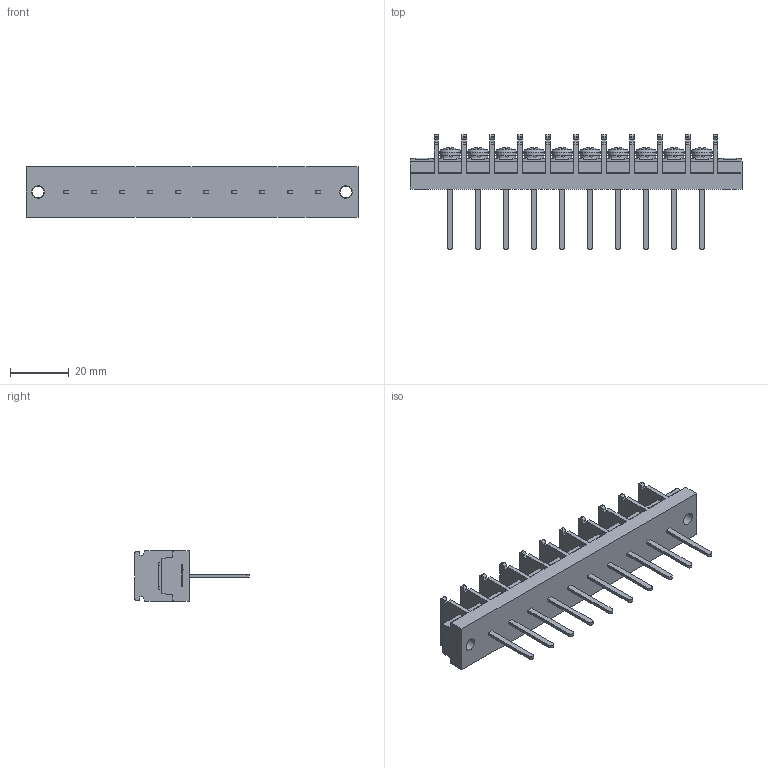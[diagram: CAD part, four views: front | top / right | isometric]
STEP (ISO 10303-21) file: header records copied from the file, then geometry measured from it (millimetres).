
FILE_DESCRIPTION(/* description */ ('Alibre Inc.'),/* implementation_level */ '2;1');
FILE_NAME(/* name */ 'export-71351A19-82BE-4975-9B4F-CE8E7717C650',/* time_stamp */ '2021-02-02T11:26:08+09:00',/* author */ (''),/* organization */ (''),/* preprocessor_version */ 'ST-DEVELOPER v17',/* originating_system */ 'Alibre',/* authorisation */ '');
FILE_SCHEMA (('CONFIG_CONTROL_DESIGN'));
Length unit declared in the file: millimetre
Bounding box: 112.7 x 39 x 17 mm (x, y, z)
Volume: 20269.8 mm3; surface area: 13781.4 mm2
Topology: 1 solids, 11 shells, 1250 faces, 3434 edges, 2280 vertices
Faces by surface type: plane 896, cylinder 170, bspline 104, cone 50, torus 20, sphere 10
Full cylindrical faces by diameter (mm): 4 x22, 4.2 x2, 6.5 x10, 7 x10
Entity records: 38079 total; most frequent: CARTESIAN_POINT 8004, ORIENTED_EDGE 6656, DIRECTION 5038, EDGE_CURVE 3328, VECTOR 2330, LINE 2330, VERTEX_POINT 2238, AXIS2_PLACEMENT_3D 1788
